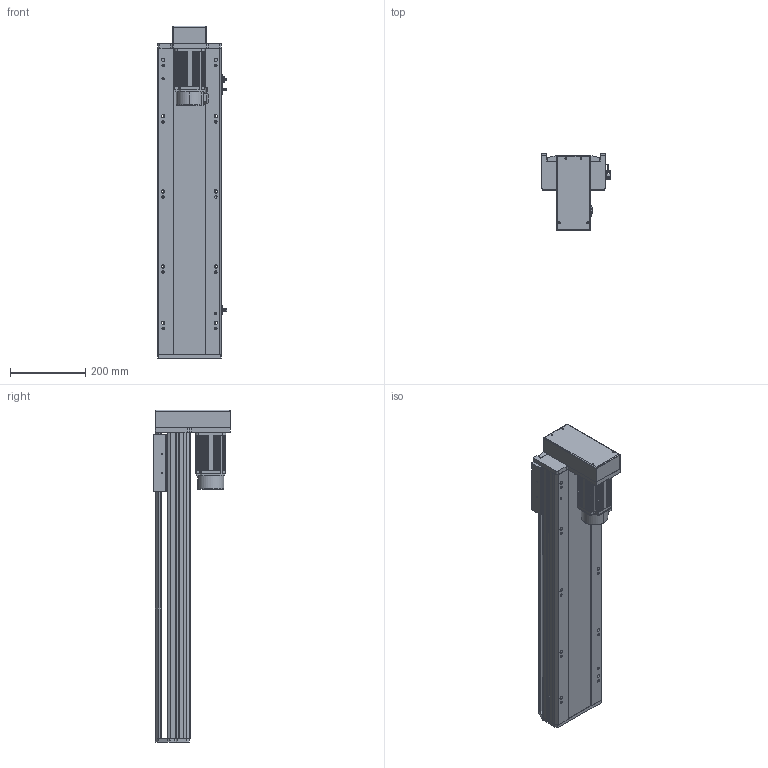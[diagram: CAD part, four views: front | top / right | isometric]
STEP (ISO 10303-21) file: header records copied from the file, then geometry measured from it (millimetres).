
FILE_DESCRIPTION (( 'STEP AP214' ), '1' );
FILE_NAME ('QTH17-600-BM-P75.STEP', '2021-11-13T09:47:25', ( '' ), ( '' ), 'SwSTEP 2.0', 'SolidWorks 2020', '' );
FILE_SCHEMA (( 'AUTOMOTIVE_DESIGN' ));
Length unit declared in the file: millimetre
Products named in the file (6): 葩璃 QTH17-BC-005 賑釱MZ-170-03 ^QTH17-BM-P75_SFA20; 葩璃 pm-t65-672^QTH17-BM-P75; QTH17-600-BM-P75; 葩璃 QTH17-BL-002 奻裔MZ-170-02^QTH17-BM-P75; 葩璃 QTH17-BM-001 菁釱MZ-170-01^QTH17-BM-P75; 葩璃 侂狟750W^QTH17-BM-P75
Assembly tree (7 placements, depth 2):
  QTH17-600-BM-P75
    葩璃 QTH17-BM-001 菁釱MZ-170-01^QTH17-BM-P75
    葩璃 QTH17-BL-002 奻裔MZ-170-02^QTH17-BM-P75
    葩璃 QTH17-BC-005 賑釱MZ-170-03 ^QTH17-BM-P75_SFA20
    葩璃 pm-t65-672^QTH17-BM-P75  x3
    葩璃 侂狟750W^QTH17-BM-P75
Bounding box: 183.7 x 204.5 x 883.5 mm (x, y, z)
Volume: 9396335 mm3; surface area: 1076276.6 mm2
Topology: 13 solids, 13 shells, 1276 faces, 3419 edges, 2187 vertices
Faces by surface type: plane 770, cylinder 414, cone 63, bspline 29
Entity records: 33996 total; most frequent: CARTESIAN_POINT 6374, DIRECTION 5492, ORIENTED_EDGE 5426, EDGE_CURVE 2713, VECTOR 1878, LINE 1878, AXIS2_PLACEMENT_3D 1807, VERTEX_POINT 1763
